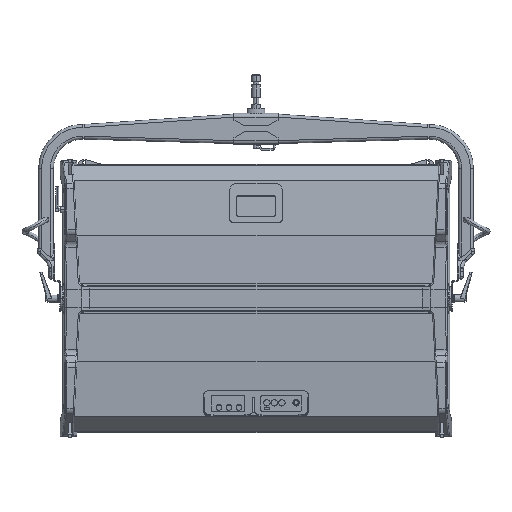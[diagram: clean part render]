
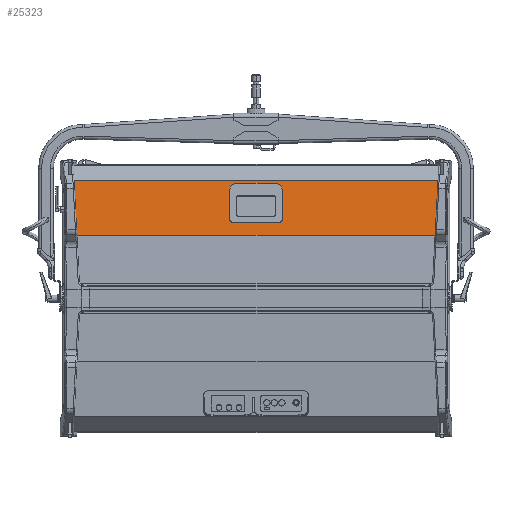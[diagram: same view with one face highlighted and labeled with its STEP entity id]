
A CAD part, top view. The second image highlights one B-rep face of the part: STEP entity #25323.
In plain terms, the highlighted planar face has unit normal (0, 0.087, 0.996).
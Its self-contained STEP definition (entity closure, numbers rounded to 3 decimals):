
#203 = EDGE_CURVE ( 'NONE', #15181, #12171, #13713, .T. ) ;
#314 = CARTESIAN_POINT ( 'NONE',  ( 643.5, 215., 123.238 ) ) ;
#326 = DIRECTION ( 'NONE',  ( -1., 0., 0. ) ) ;
#677 = LINE ( 'NONE', #8820, #25719 ) ;
#882 = ORIENTED_EDGE ( 'NONE', *, *, #18625, .F. ) ;
#971 = VERTEX_POINT ( 'NONE', #27433 ) ;
#1084 = CIRCLE ( 'NONE', #8436, 25. ) ;
#1904 = VERTEX_POINT ( 'NONE', #6548 ) ;
#2962 = DIRECTION ( 'NONE',  ( 1., 0., 0. ) ) ;
#2992 = VECTOR ( 'NONE', #326, 1000. ) ;
#3091 = VERTEX_POINT ( 'NONE', #19170 ) ;
#3439 = VECTOR ( 'NONE', #9719, 1000. ) ;
#3699 = CARTESIAN_POINT ( 'NONE',  ( -78., 259.389, 119.354 ) ) ;
#4757 = EDGE_CURVE ( 'NONE', #1904, #12171, #18502, .T. ) ;
#4761 = EDGE_CURVE ( 'NONE', #5869, #15385, #1084, .T. ) ;
#5299 = CARTESIAN_POINT ( 'NONE',  ( -609.756, 215., 123.238 ) ) ;
#5312 = CARTESIAN_POINT ( 'NONE',  ( -65., 391.883, 107.763 ) ) ;
#5376 = DIRECTION ( 'NONE',  ( -1., 0., 0. ) ) ;
#5869 = VERTEX_POINT ( 'NONE', #26695 ) ;
#6548 = CARTESIAN_POINT ( 'NONE',  ( -619.483, 400.602, 107. ) ) ;
#6595 = CIRCLE ( 'NONE', #17178, 12. ) ;
#6643 = CARTESIAN_POINT ( 'NONE',  ( -90., 366.979, 109.942 ) ) ;
#7382 = LINE ( 'NONE', #5312, #15976 ) ;
#7560 = CARTESIAN_POINT ( 'NONE',  ( -65., 391.883, 107.763 ) ) ;
#7836 = CARTESIAN_POINT ( 'NONE',  ( -90., 271.344, 118.309 ) ) ;
#8235 = PLANE ( 'NONE',  #33710 ) ;
#8436 = AXIS2_PLACEMENT_3D ( 'NONE', #15468, #15387, #15339 ) ;
#8500 = CARTESIAN_POINT ( 'NONE',  ( -78., 259.389, 119.354 ) ) ;
#8742 = DIRECTION ( 'NONE',  ( 0., 0.087, 0.996 ) ) ;
#8820 = CARTESIAN_POINT ( 'NONE',  ( -90., 366.979, 109.942 ) ) ;
#9187 = FACE_OUTER_BOUND ( 'NONE', #29674, .T. ) ;
#9219 = VERTEX_POINT ( 'NONE', #7560 ) ;
#9719 = DIRECTION ( 'NONE',  ( -1., 0., 0. ) ) ;
#9944 = CARTESIAN_POINT ( 'NONE',  ( 643.5, 400.602, 107. ) ) ;
#10350 = EDGE_LOOP ( 'NONE', ( #33130, #39652, #26887, #33627, #12663, #39076, #39236, #882 ) ) ;
#11210 = AXIS2_PLACEMENT_3D ( 'NONE', #19244, #19216, #19200 ) ;
#11291 = EDGE_CURVE ( 'NONE', #41976, #971, #18898, .T. ) ;
#11518 = CARTESIAN_POINT ( 'NONE',  ( 65., 391.883, 107.763 ) ) ;
#12171 = VERTEX_POINT ( 'NONE', #5299 ) ;
#12663 = ORIENTED_EDGE ( 'NONE', *, *, #38456, .F. ) ;
#13440 = EDGE_CURVE ( 'NONE', #3091, #1904, #29366, .T. ) ;
#13713 = LINE ( 'NONE', #314, #2992 ) ;
#15181 = VERTEX_POINT ( 'NONE', #21067 ) ;
#15339 = DIRECTION ( 'NONE',  ( 0., 0.996, -0.087 ) ) ;
#15385 = VERTEX_POINT ( 'NONE', #11518 ) ;
#15387 = DIRECTION ( 'NONE',  ( 0., 0.087, 0.996 ) ) ;
#15468 = CARTESIAN_POINT ( 'NONE',  ( 65., 366.979, 109.942 ) ) ;
#15646 = EDGE_CURVE ( 'NONE', #3091, #15181, #24177, .T. ) ;
#15976 = VECTOR ( 'NONE', #5376, 1000. ) ;
#16576 = DIRECTION ( 'NONE',  ( 0.052, -0.995, 0.087 ) ) ;
#16864 = DIRECTION ( 'NONE',  ( 0., 0.087, 0.996 ) ) ;
#17093 = CARTESIAN_POINT ( 'NONE',  ( -601.508, 57.62, 137.007 ) ) ;
#17178 = AXIS2_PLACEMENT_3D ( 'NONE', #28171, #8742, #31487 ) ;
#18502 = LINE ( 'NONE', #17093, #34845 ) ;
#18625 = EDGE_CURVE ( 'NONE', #15385, #9219, #7382, .T. ) ;
#18898 = LINE ( 'NONE', #3699, #35250 ) ;
#19170 = CARTESIAN_POINT ( 'NONE',  ( 619.483, 400.602, 107. ) ) ;
#19200 = DIRECTION ( 'NONE',  ( 0., -0.996, 0.087 ) ) ;
#19216 = DIRECTION ( 'NONE',  ( 0., 0.087, 0.996 ) ) ;
#19244 = CARTESIAN_POINT ( 'NONE',  ( -65., 366.979, 109.942 ) ) ;
#19959 = EDGE_CURVE ( 'NONE', #40392, #5869, #41182, .T. ) ;
#20288 = CARTESIAN_POINT ( 'NONE',  ( 90., 271.344, 118.309 ) ) ;
#20696 = ORIENTED_EDGE ( 'NONE', *, *, #13440, .T. ) ;
#20768 = EDGE_CURVE ( 'NONE', #9219, #23328, #33708, .T. ) ;
#21067 = CARTESIAN_POINT ( 'NONE',  ( 609.756, 215., 123.238 ) ) ;
#21138 = ORIENTED_EDGE ( 'NONE', *, *, #4757, .T. ) ;
#21488 = DIRECTION ( 'NONE',  ( 0., 0.996, -0.087 ) ) ;
#23130 = VECTOR ( 'NONE', #39705, 1000. ) ;
#23328 = VERTEX_POINT ( 'NONE', #6643 ) ;
#24177 = LINE ( 'NONE', #39712, #23130 ) ;
#24335 = DIRECTION ( 'NONE',  ( 0., -0.087, -0.996 ) ) ;
#25323 = ADVANCED_FACE ( 'NONE', ( #9187, #34128 ), #8235, .F. ) ;
#25719 = VECTOR ( 'NONE', #31563, 1000. ) ;
#26291 = CIRCLE ( 'NONE', #39383, 12. ) ;
#26509 = EDGE_CURVE ( 'NONE', #971, #40392, #26291, .T. ) ;
#26695 = CARTESIAN_POINT ( 'NONE',  ( 90., 366.979, 109.942 ) ) ;
#26887 = ORIENTED_EDGE ( 'NONE', *, *, #26509, .F. ) ;
#27209 = DIRECTION ( 'NONE',  ( 0., -0.996, 0.087 ) ) ;
#27433 = CARTESIAN_POINT ( 'NONE',  ( 78., 259.389, 119.354 ) ) ;
#28101 = VERTEX_POINT ( 'NONE', #7836 ) ;
#28171 = CARTESIAN_POINT ( 'NONE',  ( -78., 271.344, 118.309 ) ) ;
#28372 = ORIENTED_EDGE ( 'NONE', *, *, #203, .F. ) ;
#29366 = LINE ( 'NONE', #9944, #3439 ) ;
#29674 = EDGE_LOOP ( 'NONE', ( #33053, #20696, #21138, #28372 ) ) ;
#31487 = DIRECTION ( 'NONE',  ( 0., -0.996, 0.087 ) ) ;
#31563 = DIRECTION ( 'NONE',  ( 0., -0.996, 0.087 ) ) ;
#31751 = EDGE_CURVE ( 'NONE', #23328, #28101, #677, .T. ) ;
#32251 = CARTESIAN_POINT ( 'NONE',  ( 78., 271.344, 118.309 ) ) ;
#32273 = VECTOR ( 'NONE', #38049, 1000. ) ;
#33053 = ORIENTED_EDGE ( 'NONE', *, *, #15646, .F. ) ;
#33130 = ORIENTED_EDGE ( 'NONE', *, *, #4761, .F. ) ;
#33627 = ORIENTED_EDGE ( 'NONE', *, *, #11291, .F. ) ;
#33708 = CIRCLE ( 'NONE', #11210, 25. ) ;
#33710 = AXIS2_PLACEMENT_3D ( 'NONE', #38580, #24335, #21488 ) ;
#34128 = FACE_BOUND ( 'NONE', #10350, .T. ) ;
#34845 = VECTOR ( 'NONE', #16576, 1000. ) ;
#35250 = VECTOR ( 'NONE', #2962, 1000. ) ;
#38049 = DIRECTION ( 'NONE',  ( 0., 0.996, -0.087 ) ) ;
#38235 = CARTESIAN_POINT ( 'NONE',  ( 90., 366.979, 109.942 ) ) ;
#38456 = EDGE_CURVE ( 'NONE', #28101, #41976, #6595, .T. ) ;
#38580 = CARTESIAN_POINT ( 'NONE',  ( 643.5, 215., 123.238 ) ) ;
#39076 = ORIENTED_EDGE ( 'NONE', *, *, #31751, .F. ) ;
#39236 = ORIENTED_EDGE ( 'NONE', *, *, #20768, .F. ) ;
#39383 = AXIS2_PLACEMENT_3D ( 'NONE', #32251, #16864, #27209 ) ;
#39652 = ORIENTED_EDGE ( 'NONE', *, *, #19959, .F. ) ;
#39705 = DIRECTION ( 'NONE',  ( -0.052, -0.995, 0.087 ) ) ;
#39712 = CARTESIAN_POINT ( 'NONE',  ( 601.508, 57.62, 137.007 ) ) ;
#40392 = VERTEX_POINT ( 'NONE', #20288 ) ;
#41182 = LINE ( 'NONE', #38235, #32273 ) ;
#41976 = VERTEX_POINT ( 'NONE', #8500 ) ;
